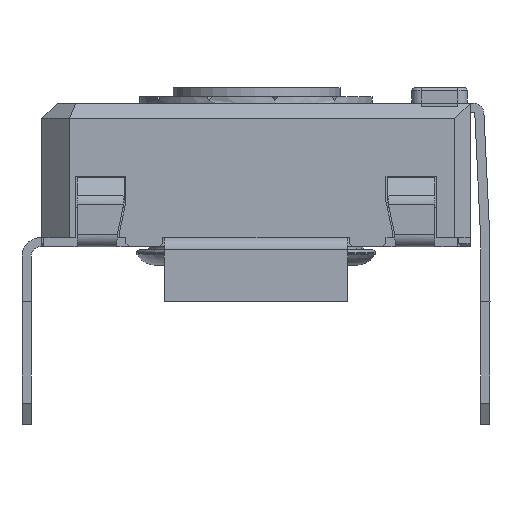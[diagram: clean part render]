
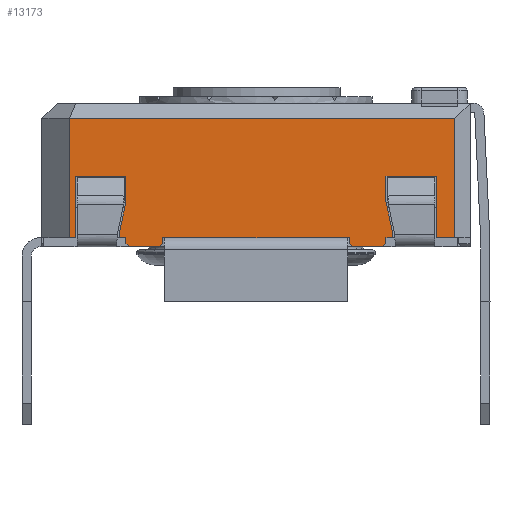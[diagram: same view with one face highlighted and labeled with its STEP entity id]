
A CAD part, left-side view. The second image highlights one B-rep face of the part: STEP entity #13173.
In plain terms, the highlighted planar face has unit normal (-1, 0, 0).
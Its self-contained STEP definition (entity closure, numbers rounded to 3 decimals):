
#455=PLANE('',#14061);
#1064=FACE_OUTER_BOUND('',#1752,.T.);
#1752=EDGE_LOOP('',(#10875,#10876,#10877,#10878,#10879,#10880,#10881,#10882,
#10883,#10884,#10885,#10886,#10887,#10888,#10889,#10890,#10891,#10892,#10893,
#10894,#10895,#10896,#10897,#10898,#10899,#10900,#10901,#10902));
#2121=LINE('',#18297,#3636);
#2126=LINE('',#18307,#3641);
#2131=LINE('',#18317,#3646);
#2802=LINE('',#20244,#4317);
#2807=LINE('',#20253,#4322);
#2810=LINE('',#20259,#4325);
#2814=LINE('',#20266,#4329);
#2838=LINE('',#20314,#4353);
#2841=LINE('',#20320,#4356);
#2846=LINE('',#20330,#4361);
#2849=LINE('',#20336,#4364);
#2852=LINE('',#20342,#4367);
#2870=LINE('',#20377,#4385);
#2882=LINE('',#20399,#4397);
#2885=LINE('',#20405,#4400);
#2922=LINE('',#20539,#4437);
#2930=LINE('',#20553,#4445);
#2939=LINE('',#20571,#4454);
#2944=LINE('',#20581,#4459);
#2946=LINE('',#20584,#4461);
#3068=LINE('',#20888,#4583);
#3070=LINE('',#20893,#4585);
#3073=LINE('',#20897,#4588);
#3075=LINE('',#20901,#4590);
#3078=LINE('',#20909,#4593);
#3079=LINE('',#20911,#4594);
#3080=LINE('',#20912,#4595);
#3081=LINE('',#20913,#4596);
#3636=VECTOR('',#14654,10.);
#3641=VECTOR('',#14659,10.);
#3646=VECTOR('',#14664,10.);
#4317=VECTOR('',#16199,10.);
#4322=VECTOR('',#16206,10.);
#4325=VECTOR('',#16211,10.);
#4329=VECTOR('',#16217,10.);
#4353=VECTOR('',#16261,10.);
#4356=VECTOR('',#16266,10.);
#4361=VECTOR('',#16273,10.);
#4364=VECTOR('',#16278,10.);
#4367=VECTOR('',#16283,10.);
#4385=VECTOR('',#16303,10.);
#4397=VECTOR('',#16317,10.);
#4400=VECTOR('',#16322,10.);
#4437=VECTOR('',#16403,10.);
#4445=VECTOR('',#16413,10.);
#4454=VECTOR('',#16424,10.);
#4459=VECTOR('',#16431,10.);
#4461=VECTOR('',#16435,10.);
#4583=VECTOR('',#16715,10.);
#4585=VECTOR('',#16719,10.);
#4588=VECTOR('',#16724,10.);
#4590=VECTOR('',#16730,10.);
#4593=VECTOR('',#16741,10.);
#4594=VECTOR('',#16742,10.);
#4595=VECTOR('',#16743,10.);
#4596=VECTOR('',#16744,10.);
#5469=VERTEX_POINT('',#18294);
#5470=VERTEX_POINT('',#18296);
#5474=VERTEX_POINT('',#18304);
#5475=VERTEX_POINT('',#18306);
#5479=VERTEX_POINT('',#18314);
#5480=VERTEX_POINT('',#18316);
#6051=VERTEX_POINT('',#20241);
#6052=VERTEX_POINT('',#20243);
#6056=VERTEX_POINT('',#20256);
#6059=VERTEX_POINT('',#20264);
#6072=VERTEX_POINT('',#20311);
#6074=VERTEX_POINT('',#20317);
#6078=VERTEX_POINT('',#20327);
#6080=VERTEX_POINT('',#20333);
#6083=VERTEX_POINT('',#20340);
#6099=VERTEX_POINT('',#20375);
#6108=VERTEX_POINT('',#20397);
#6110=VERTEX_POINT('',#20403);
#6137=VERTEX_POINT('',#20537);
#6142=VERTEX_POINT('',#20551);
#6149=VERTEX_POINT('',#20568);
#6153=VERTEX_POINT('',#20578);
#6227=VERTEX_POINT('',#20885);
#6228=VERTEX_POINT('',#20887);
#6229=VERTEX_POINT('',#20891);
#6230=VERTEX_POINT('',#20892);
#6231=VERTEX_POINT('',#20908);
#6232=VERTEX_POINT('',#20910);
#6724=EDGE_CURVE('',#5470,#5469,#2121,.T.);
#6729=EDGE_CURVE('',#5475,#5474,#2126,.T.);
#6734=EDGE_CURVE('',#5480,#5479,#2131,.T.);
#7594=EDGE_CURVE('',#6052,#6051,#2802,.T.);
#7599=EDGE_CURVE('',#6051,#5480,#2807,.T.);
#7602=EDGE_CURVE('',#5479,#6056,#2810,.T.);
#7606=EDGE_CURVE('',#6059,#6056,#2814,.T.);
#7631=EDGE_CURVE('',#5469,#6072,#2838,.T.);
#7634=EDGE_CURVE('',#6072,#6074,#2841,.T.);
#7639=EDGE_CURVE('',#6074,#6078,#2846,.T.);
#7642=EDGE_CURVE('',#6078,#6080,#2849,.T.);
#7645=EDGE_CURVE('',#6080,#6083,#2852,.T.);
#7663=EDGE_CURVE('',#6083,#6099,#2870,.T.);
#7675=EDGE_CURVE('',#6108,#6099,#2882,.T.);
#7678=EDGE_CURVE('',#6110,#6108,#2885,.T.);
#7727=EDGE_CURVE('',#6137,#6110,#2922,.T.);
#7735=EDGE_CURVE('',#6137,#6142,#2930,.T.);
#7744=EDGE_CURVE('',#6142,#6149,#2939,.T.);
#7749=EDGE_CURVE('',#6149,#6153,#2944,.T.);
#7751=EDGE_CURVE('',#6153,#6052,#2946,.T.);
#7889=EDGE_CURVE('',#6227,#6228,#3068,.T.);
#7891=EDGE_CURVE('',#6229,#6230,#3070,.T.);
#7894=EDGE_CURVE('',#5470,#6227,#3073,.T.);
#7896=EDGE_CURVE('',#5474,#6230,#3075,.T.);
#7899=EDGE_CURVE('',#6059,#6231,#3078,.T.);
#7900=EDGE_CURVE('',#6232,#6231,#3079,.T.);
#7901=EDGE_CURVE('',#5475,#6232,#3080,.T.);
#7902=EDGE_CURVE('',#6229,#6228,#3081,.T.);
#10875=ORIENTED_EDGE('',*,*,#7599,.T.);
#10876=ORIENTED_EDGE('',*,*,#6734,.T.);
#10877=ORIENTED_EDGE('',*,*,#7602,.T.);
#10878=ORIENTED_EDGE('',*,*,#7606,.F.);
#10879=ORIENTED_EDGE('',*,*,#7899,.T.);
#10880=ORIENTED_EDGE('',*,*,#7900,.F.);
#10881=ORIENTED_EDGE('',*,*,#7901,.F.);
#10882=ORIENTED_EDGE('',*,*,#6729,.T.);
#10883=ORIENTED_EDGE('',*,*,#7896,.T.);
#10884=ORIENTED_EDGE('',*,*,#7891,.F.);
#10885=ORIENTED_EDGE('',*,*,#7902,.T.);
#10886=ORIENTED_EDGE('',*,*,#7889,.F.);
#10887=ORIENTED_EDGE('',*,*,#7894,.F.);
#10888=ORIENTED_EDGE('',*,*,#6724,.T.);
#10889=ORIENTED_EDGE('',*,*,#7631,.T.);
#10890=ORIENTED_EDGE('',*,*,#7634,.T.);
#10891=ORIENTED_EDGE('',*,*,#7639,.T.);
#10892=ORIENTED_EDGE('',*,*,#7642,.T.);
#10893=ORIENTED_EDGE('',*,*,#7645,.T.);
#10894=ORIENTED_EDGE('',*,*,#7663,.T.);
#10895=ORIENTED_EDGE('',*,*,#7675,.F.);
#10896=ORIENTED_EDGE('',*,*,#7678,.F.);
#10897=ORIENTED_EDGE('',*,*,#7727,.F.);
#10898=ORIENTED_EDGE('',*,*,#7735,.T.);
#10899=ORIENTED_EDGE('',*,*,#7744,.T.);
#10900=ORIENTED_EDGE('',*,*,#7749,.T.);
#10901=ORIENTED_EDGE('',*,*,#7751,.T.);
#10902=ORIENTED_EDGE('',*,*,#7594,.T.);
#13173=ADVANCED_FACE('',(#1064),#455,.T.);
#14061=AXIS2_PLACEMENT_3D('',#20907,#16739,#16740);
#14654=DIRECTION('',(0.,-1.,0.));
#14659=DIRECTION('',(0.,-1.,0.));
#14664=DIRECTION('',(0.,-1.,0.));
#16199=DIRECTION('',(0.,0.208,-0.978));
#16206=DIRECTION('',(0.,0.,-1.));
#16211=DIRECTION('',(0.,0.,-1.));
#16217=DIRECTION('',(0.,0.707,0.707));
#16261=DIRECTION('',(0.,0.,1.));
#16266=DIRECTION('',(0.,0.208,0.978));
#16273=DIRECTION('',(0.,0.,1.));
#16278=DIRECTION('',(0.,-1.,0.));
#16283=DIRECTION('',(0.,0.,-1.));
#16303=DIRECTION('',(0.,-1.,0.));
#16317=DIRECTION('',(0.,0.,-1.));
#16322=DIRECTION('',(0.,-1.,0.));
#16403=DIRECTION('',(0.,0.,1.));
#16413=DIRECTION('',(0.,-1.,0.));
#16424=DIRECTION('',(0.,0.,1.));
#16431=DIRECTION('',(0.,-1.,0.));
#16435=DIRECTION('',(0.,0.,-1.));
#16715=DIRECTION('',(0.,0.707,-0.707));
#16719=DIRECTION('',(0.,0.707,0.707));
#16724=DIRECTION('',(0.,0.,-1.));
#16730=DIRECTION('',(0.,0.,-1.));
#16739=DIRECTION('center_axis',(-1.,0.,0.));
#16740=DIRECTION('ref_axis',(0.,0.,1.));
#16741=DIRECTION('',(0.,-1.,0.));
#16742=DIRECTION('',(0.,0.707,-0.707));
#16743=DIRECTION('',(0.,0.,-1.));
#16744=DIRECTION('',(0.,-1.,0.));
#18294=CARTESIAN_POINT('',(-14.467,-7.348,0.));
#18296=CARTESIAN_POINT('',(-14.467,-7.148,0.));
#18297=CARTESIAN_POINT('',(-14.467,4.102,0.));
#18304=CARTESIAN_POINT('',(-14.467,-5.948,0.));
#18306=CARTESIAN_POINT('',(-14.467,0.152,0.));
#18307=CARTESIAN_POINT('',(-14.467,4.102,0.));
#18314=CARTESIAN_POINT('',(-14.467,1.352,0.));
#18316=CARTESIAN_POINT('',(-14.467,1.552,0.));
#18317=CARTESIAN_POINT('',(-14.467,4.102,0.));
#20241=CARTESIAN_POINT('',(-14.467,1.552,0.235));
#20243=CARTESIAN_POINT('',(-14.467,1.352,1.176));
#20244=CARTESIAN_POINT('',(-14.467,1.228,1.757));
#20253=CARTESIAN_POINT('',(-14.467,1.552,0.));
#20256=CARTESIAN_POINT('',(-14.467,1.352,-0.2));
#20259=CARTESIAN_POINT('',(-14.467,1.352,0.));
#20264=CARTESIAN_POINT('',(-14.467,1.252,-0.3));
#20266=CARTESIAN_POINT('',(-14.467,-1.436,-2.988));
#20311=CARTESIAN_POINT('',(-14.467,-7.348,0.235));
#20314=CARTESIAN_POINT('',(-14.467,-7.348,0.118));
#20317=CARTESIAN_POINT('',(-14.467,-7.148,1.176));
#20320=CARTESIAN_POINT('',(-14.467,-7.453,-0.254));
#20327=CARTESIAN_POINT('',(-14.467,-7.148,2.));
#20330=CARTESIAN_POINT('',(-14.467,-7.148,0.588));
#20333=CARTESIAN_POINT('',(-14.467,-8.798,2.));
#20336=CARTESIAN_POINT('',(-14.467,-8.523,2.));
#20340=CARTESIAN_POINT('',(-14.467,-8.798,0.));
#20342=CARTESIAN_POINT('',(-14.467,-8.798,0.));
#20375=CARTESIAN_POINT('',(-14.467,-9.398,0.));
#20377=CARTESIAN_POINT('',(-14.467,-9.595,0.));
#20397=CARTESIAN_POINT('',(-14.467,-9.398,3.9));
#20399=CARTESIAN_POINT('',(-14.467,-9.398,0.));
#20403=CARTESIAN_POINT('',(-14.467,3.202,3.9));
#20405=CARTESIAN_POINT('',(-14.467,-6.398,3.9));
#20537=CARTESIAN_POINT('',(-14.467,3.202,0.));
#20539=CARTESIAN_POINT('',(-14.467,3.202,0.));
#20551=CARTESIAN_POINT('',(-14.467,3.002,0.));
#20553=CARTESIAN_POINT('',(-14.467,-2.985,0.));
#20568=CARTESIAN_POINT('',(-14.467,3.002,2.));
#20571=CARTESIAN_POINT('',(-14.467,3.002,0.));
#20578=CARTESIAN_POINT('',(-14.467,1.352,2.));
#20581=CARTESIAN_POINT('',(-14.467,-3.448,2.));
#20584=CARTESIAN_POINT('',(-14.467,1.352,1.));
#20885=CARTESIAN_POINT('',(-14.467,-7.148,-0.2));
#20887=CARTESIAN_POINT('',(-14.467,-7.048,-0.3));
#20888=CARTESIAN_POINT('',(-14.467,-7.861,0.513));
#20891=CARTESIAN_POINT('',(-14.467,-6.048,-0.3));
#20892=CARTESIAN_POINT('',(-14.467,-5.948,-0.2));
#20893=CARTESIAN_POINT('',(-14.467,-6.911,-1.163));
#20897=CARTESIAN_POINT('',(-14.467,-7.148,0.));
#20901=CARTESIAN_POINT('',(-14.467,-5.948,0.));
#20907=CARTESIAN_POINT('Origin',(-14.467,-9.898,0.));
#20908=CARTESIAN_POINT('',(-14.467,0.252,-0.3));
#20909=CARTESIAN_POINT('',(-14.467,0.152,-0.3));
#20910=CARTESIAN_POINT('',(-14.467,0.152,-0.2));
#20911=CARTESIAN_POINT('',(-14.467,-2.386,2.338));
#20912=CARTESIAN_POINT('',(-14.467,0.152,0.));
#20913=CARTESIAN_POINT('',(-14.467,-7.148,-0.3));
